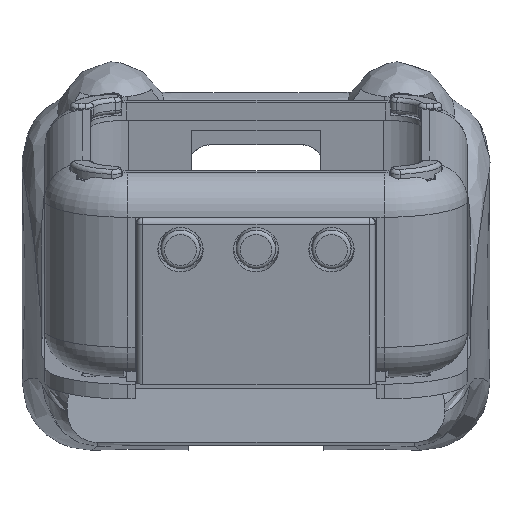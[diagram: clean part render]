
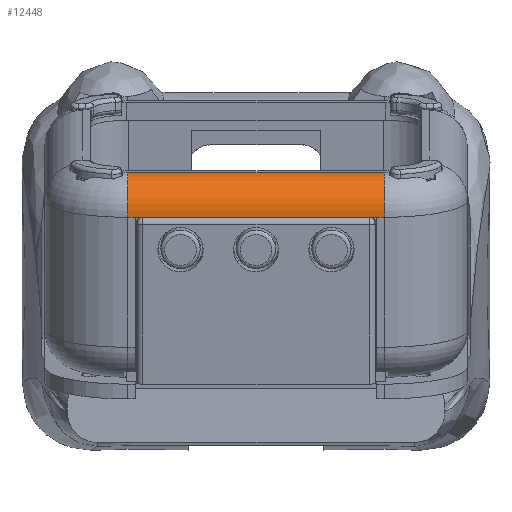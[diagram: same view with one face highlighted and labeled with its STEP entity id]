
A CAD part, top view. The second image highlights one B-rep face of the part: STEP entity #12448.
In plain terms, the highlighted cylindrical face has radius 5 mm (diameter 10 mm), a partial arc.
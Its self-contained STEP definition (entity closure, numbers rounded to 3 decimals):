
#7802 = TOROIDAL_SURFACE('',#7803,6.,5.);
#7803 = AXIS2_PLACEMENT_3D('',#7804,#7805,#7806);
#7804 = CARTESIAN_POINT('',(17.,-5.425,54.589));
#7805 = DIRECTION('',(-0.,0.978,0.208));
#7806 = DIRECTION('',(1.,0.,0.));
#9343 = PLANE('',#9344);
#9344 = AXIS2_PLACEMENT_3D('',#9345,#9346,#9347);
#9345 = CARTESIAN_POINT('',(0.,3.,39.));
#9346 = DIRECTION('',(0.,-0.978,-0.208));
#9347 = DIRECTION('',(1.,0.,0.));
#10290 = VERTEX_POINT('',#10291);
#10291 = CARTESIAN_POINT('',(17.,-1.782,61.497));
#10317 = EDGE_CURVE('',#10318,#10290,#10320,.T.);
#10318 = VERTEX_POINT('',#10319);
#10319 = CARTESIAN_POINT('',(17.,-7.712,65.349));
#10320 = SURFACE_CURVE('',#10321,(#10326,#10333),.PCURVE_S1.);
#10321 = CIRCLE('',#10322,5.);
#10322 = AXIS2_PLACEMENT_3D('',#10323,#10324,#10325);
#10323 = CARTESIAN_POINT('',(17.,-6.673,60.458));
#10324 = DIRECTION('',(-1.,0.,0.));
#10325 = DIRECTION('',(0.,-0.208,0.978));
#10326 = PCURVE('',#7802,#10327);
#10327 = DEFINITIONAL_REPRESENTATION('',(#10328),#10332);
#10328 = LINE('',#10329,#10330);
#10329 = CARTESIAN_POINT('',(4.712,0.));
#10330 = VECTOR('',#10331,1.);
#10331 = DIRECTION('',(-0.,1.));
#10332 = ( GEOMETRIC_REPRESENTATION_CONTEXT(2) 
PARAMETRIC_REPRESENTATION_CONTEXT() REPRESENTATION_CONTEXT('2D SPACE',''
  ) );
#10333 = PCURVE('',#10334,#10339);
#10334 = CYLINDRICAL_SURFACE('',#10335,5.);
#10335 = AXIS2_PLACEMENT_3D('',#10336,#10337,#10338);
#10336 = CARTESIAN_POINT('',(17.,-6.673,60.458));
#10337 = DIRECTION('',(-1.,-0.,0.));
#10338 = DIRECTION('',(0.,-0.208,0.978));
#10339 = DEFINITIONAL_REPRESENTATION('',(#10340),#10344);
#10340 = LINE('',#10341,#10342);
#10341 = CARTESIAN_POINT('',(0.,0.));
#10342 = VECTOR('',#10343,1.);
#10343 = DIRECTION('',(1.,0.));
#10344 = ( GEOMETRIC_REPRESENTATION_CONTEXT(2) 
PARAMETRIC_REPRESENTATION_CONTEXT() REPRESENTATION_CONTEXT('2D SPACE',''
  ) );
#11803 = VERTEX_POINT('',#11804);
#11804 = CARTESIAN_POINT('',(-17.,-1.782,61.497));
#11823 = TOROIDAL_SURFACE('',#11824,6.,5.);
#11824 = AXIS2_PLACEMENT_3D('',#11825,#11826,#11827);
#11825 = CARTESIAN_POINT('',(-17.,-5.425,54.589));
#11826 = DIRECTION('',(-0.,0.978,0.208));
#11827 = DIRECTION('',(0.,-0.208,0.978));
#11970 = EDGE_CURVE('',#10290,#11803,#11971,.T.);
#11971 = SURFACE_CURVE('',#11972,(#11976,#11983),.PCURVE_S1.);
#11972 = LINE('',#11973,#11974);
#11973 = CARTESIAN_POINT('',(17.,-1.782,61.497));
#11974 = VECTOR('',#11975,1.);
#11975 = DIRECTION('',(-1.,-0.,0.));
#11976 = PCURVE('',#9343,#11977);
#11977 = DEFINITIONAL_REPRESENTATION('',(#11978),#11982);
#11978 = LINE('',#11979,#11980);
#11979 = CARTESIAN_POINT('',(17.,23.));
#11980 = VECTOR('',#11981,1.);
#11981 = DIRECTION('',(-1.,0.));
#11982 = ( GEOMETRIC_REPRESENTATION_CONTEXT(2) 
PARAMETRIC_REPRESENTATION_CONTEXT() REPRESENTATION_CONTEXT('2D SPACE',''
  ) );
#11983 = PCURVE('',#10334,#11984);
#11984 = DEFINITIONAL_REPRESENTATION('',(#11985),#11989);
#11985 = LINE('',#11986,#11987);
#11986 = CARTESIAN_POINT('',(1.571,0.));
#11987 = VECTOR('',#11988,1.);
#11988 = DIRECTION('',(0.,1.));
#11989 = ( GEOMETRIC_REPRESENTATION_CONTEXT(2) 
PARAMETRIC_REPRESENTATION_CONTEXT() REPRESENTATION_CONTEXT('2D SPACE',''
  ) );
#12448 = ADVANCED_FACE('',(#12449),#10334,.T.);
#12449 = FACE_BOUND('',#12450,.T.);
#12450 = EDGE_LOOP('',(#12451,#12475,#12502,#12529,#12554,#12555));
#12451 = ORIENTED_EDGE('',*,*,#12452,.F.);
#12452 = EDGE_CURVE('',#12453,#11803,#12455,.T.);
#12453 = VERTEX_POINT('',#12454);
#12454 = CARTESIAN_POINT('',(-17.,-7.712,65.349));
#12455 = SURFACE_CURVE('',#12456,(#12461,#12468),.PCURVE_S1.);
#12456 = CIRCLE('',#12457,5.);
#12457 = AXIS2_PLACEMENT_3D('',#12458,#12459,#12460);
#12458 = CARTESIAN_POINT('',(-17.,-6.673,60.458));
#12459 = DIRECTION('',(-1.,0.,0.));
#12460 = DIRECTION('',(0.,-0.208,0.978));
#12461 = PCURVE('',#10334,#12462);
#12462 = DEFINITIONAL_REPRESENTATION('',(#12463),#12467);
#12463 = LINE('',#12464,#12465);
#12464 = CARTESIAN_POINT('',(0.,34.));
#12465 = VECTOR('',#12466,1.);
#12466 = DIRECTION('',(1.,0.));
#12467 = ( GEOMETRIC_REPRESENTATION_CONTEXT(2) 
PARAMETRIC_REPRESENTATION_CONTEXT() REPRESENTATION_CONTEXT('2D SPACE',''
  ) );
#12468 = PCURVE('',#11823,#12469);
#12469 = DEFINITIONAL_REPRESENTATION('',(#12470),#12474);
#12470 = LINE('',#12471,#12472);
#12471 = CARTESIAN_POINT('',(6.283,0.));
#12472 = VECTOR('',#12473,1.);
#12473 = DIRECTION('',(-0.,1.));
#12474 = ( GEOMETRIC_REPRESENTATION_CONTEXT(2) 
PARAMETRIC_REPRESENTATION_CONTEXT() REPRESENTATION_CONTEXT('2D SPACE',''
  ) );
#12475 = ORIENTED_EDGE('',*,*,#12476,.F.);
#12476 = EDGE_CURVE('',#12477,#12453,#12479,.T.);
#12477 = VERTEX_POINT('',#12478);
#12478 = CARTESIAN_POINT('',(-16.,-7.712,65.349));
#12479 = SURFACE_CURVE('',#12480,(#12484,#12490),.PCURVE_S1.);
#12480 = LINE('',#12481,#12482);
#12481 = CARTESIAN_POINT('',(17.,-7.712,65.349));
#12482 = VECTOR('',#12483,1.);
#12483 = DIRECTION('',(-1.,-0.,0.));
#12484 = PCURVE('',#10334,#12485);
#12485 = DEFINITIONAL_REPRESENTATION('',(#12486),#12489);
#12486 = B_SPLINE_CURVE_WITH_KNOTS('',1,(#12487,#12488),.UNSPECIFIED.,
  .F.,.F.,(2,2),(33.,34.),.PIECEWISE_BEZIER_KNOTS.);
#12487 = CARTESIAN_POINT('',(0.,33.));
#12488 = CARTESIAN_POINT('',(0.,34.));
#12489 = ( GEOMETRIC_REPRESENTATION_CONTEXT(2) 
PARAMETRIC_REPRESENTATION_CONTEXT() REPRESENTATION_CONTEXT('2D SPACE',''
  ) );
#12490 = PCURVE('',#12491,#12496);
#12491 = PLANE('',#12492);
#12492 = AXIS2_PLACEMENT_3D('',#12493,#12494,#12495);
#12493 = CARTESIAN_POINT('',(28.,-2.822,66.388));
#12494 = DIRECTION('',(0.,0.208,-0.978));
#12495 = DIRECTION('',(-1.,-0.,0.));
#12496 = DEFINITIONAL_REPRESENTATION('',(#12497),#12501);
#12497 = LINE('',#12498,#12499);
#12498 = CARTESIAN_POINT('',(11.,-5.));
#12499 = VECTOR('',#12500,1.);
#12500 = DIRECTION('',(1.,0.));
#12501 = ( GEOMETRIC_REPRESENTATION_CONTEXT(2) 
PARAMETRIC_REPRESENTATION_CONTEXT() REPRESENTATION_CONTEXT('2D SPACE',''
  ) );
#12502 = ORIENTED_EDGE('',*,*,#12503,.F.);
#12503 = EDGE_CURVE('',#12504,#12477,#12506,.T.);
#12504 = VERTEX_POINT('',#12505);
#12505 = CARTESIAN_POINT('',(16.,-7.712,65.349));
#12506 = SURFACE_CURVE('',#12507,(#12511,#12517),.PCURVE_S1.);
#12507 = LINE('',#12508,#12509);
#12508 = CARTESIAN_POINT('',(17.,-7.712,65.349));
#12509 = VECTOR('',#12510,1.);
#12510 = DIRECTION('',(-1.,-0.,0.));
#12511 = PCURVE('',#10334,#12512);
#12512 = DEFINITIONAL_REPRESENTATION('',(#12513),#12516);
#12513 = B_SPLINE_CURVE_WITH_KNOTS('',1,(#12514,#12515),.UNSPECIFIED.,
  .F.,.F.,(2,2),(1.,33.),.PIECEWISE_BEZIER_KNOTS.);
#12514 = CARTESIAN_POINT('',(0.,1.));
#12515 = CARTESIAN_POINT('',(0.,33.));
#12516 = ( GEOMETRIC_REPRESENTATION_CONTEXT(2) 
PARAMETRIC_REPRESENTATION_CONTEXT() REPRESENTATION_CONTEXT('2D SPACE',''
  ) );
#12517 = PCURVE('',#12518,#12523);
#12518 = PLANE('',#12519);
#12519 = AXIS2_PLACEMENT_3D('',#12520,#12521,#12522);
#12520 = CARTESIAN_POINT('',(-16.,-6.257,58.502));
#12521 = DIRECTION('',(0.,-0.978,-0.208));
#12522 = DIRECTION('',(1.,0.,0.));
#12523 = DEFINITIONAL_REPRESENTATION('',(#12524),#12528);
#12524 = LINE('',#12525,#12526);
#12525 = CARTESIAN_POINT('',(33.,7.));
#12526 = VECTOR('',#12527,1.);
#12527 = DIRECTION('',(-1.,0.));
#12528 = ( GEOMETRIC_REPRESENTATION_CONTEXT(2) 
PARAMETRIC_REPRESENTATION_CONTEXT() REPRESENTATION_CONTEXT('2D SPACE',''
  ) );
#12529 = ORIENTED_EDGE('',*,*,#12530,.F.);
#12530 = EDGE_CURVE('',#10318,#12504,#12531,.T.);
#12531 = SURFACE_CURVE('',#12532,(#12536,#12542),.PCURVE_S1.);
#12532 = LINE('',#12533,#12534);
#12533 = CARTESIAN_POINT('',(17.,-7.712,65.349));
#12534 = VECTOR('',#12535,1.);
#12535 = DIRECTION('',(-1.,-0.,0.));
#12536 = PCURVE('',#10334,#12537);
#12537 = DEFINITIONAL_REPRESENTATION('',(#12538),#12541);
#12538 = B_SPLINE_CURVE_WITH_KNOTS('',1,(#12539,#12540),.UNSPECIFIED.,
  .F.,.F.,(2,2),(0.,1.),.PIECEWISE_BEZIER_KNOTS.);
#12539 = CARTESIAN_POINT('',(0.,0.));
#12540 = CARTESIAN_POINT('',(0.,1.));
#12541 = ( GEOMETRIC_REPRESENTATION_CONTEXT(2) 
PARAMETRIC_REPRESENTATION_CONTEXT() REPRESENTATION_CONTEXT('2D SPACE',''
  ) );
#12542 = PCURVE('',#12543,#12548);
#12543 = PLANE('',#12544);
#12544 = AXIS2_PLACEMENT_3D('',#12545,#12546,#12547);
#12545 = CARTESIAN_POINT('',(28.,-2.822,66.388));
#12546 = DIRECTION('',(0.,0.208,-0.978));
#12547 = DIRECTION('',(-1.,-0.,0.));
#12548 = DEFINITIONAL_REPRESENTATION('',(#12549),#12553);
#12549 = LINE('',#12550,#12551);
#12550 = CARTESIAN_POINT('',(11.,-5.));
#12551 = VECTOR('',#12552,1.);
#12552 = DIRECTION('',(1.,0.));
#12553 = ( GEOMETRIC_REPRESENTATION_CONTEXT(2) 
PARAMETRIC_REPRESENTATION_CONTEXT() REPRESENTATION_CONTEXT('2D SPACE',''
  ) );
#12554 = ORIENTED_EDGE('',*,*,#10317,.T.);
#12555 = ORIENTED_EDGE('',*,*,#11970,.T.);
